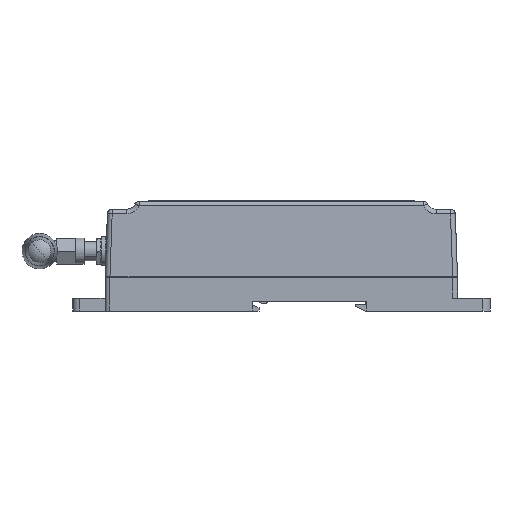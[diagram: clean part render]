
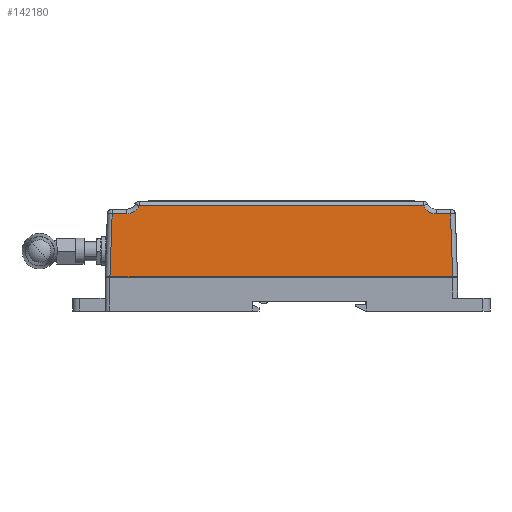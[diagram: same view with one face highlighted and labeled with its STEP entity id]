
A CAD part, left-side view. The second image highlights one B-rep face of the part: STEP entity #142180.
In plain terms, the highlighted planar face has unit normal (-0.999, 0, 0.035).
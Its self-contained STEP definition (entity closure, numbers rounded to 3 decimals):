
#5036 = VECTOR ( 'NONE', #137524, 1000. ) ;
#9621 = PLANE ( 'NONE',  #84784 ) ;
#18793 = VERTEX_POINT ( 'NONE', #130664 ) ;
#19945 = VECTOR ( 'NONE', #118514, 1000. ) ;
#21658 = CARTESIAN_POINT ( 'NONE',  ( 0.742, 6.619, 21.252 ) ) ;
#22987 = DIRECTION ( 'NONE',  ( 0., 1., 0. ) ) ;
#25621 = CARTESIAN_POINT ( 'NONE',  ( 0.742, 102.881, 21.252 ) ) ;
#26597 = FACE_OUTER_BOUND ( 'NONE', #163834, .T. ) ;
#43838 = CARTESIAN_POINT ( 'NONE',  ( 0.059, 1.558, 1.7 ) ) ;
#44409 = LINE ( 'NONE', #63362, #5036 ) ;
#46952 = CARTESIAN_POINT ( 'NONE',  ( 0.742, 107.259, 21.252 ) ) ;
#51894 = ORIENTED_EDGE ( 'NONE', *, *, #53049, .F. ) ;
#52694 = CARTESIAN_POINT ( 'NONE',  ( 0.742, 0., 21.252 ) ) ;
#53049 = EDGE_CURVE ( 'NONE', #112530, #167129, #147745, .T. ) ;
#53608 = VERTEX_POINT ( 'NONE', #46952 ) ;
#54285 = DIRECTION ( 'NONE',  ( 0.035, 0., 0.999 ) ) ;
#54790 = CARTESIAN_POINT ( 'NONE',  ( 0.774, 99.631, 22.178 ) ) ;
#55569 =( BOUNDED_CURVE ( )  B_SPLINE_CURVE ( 3, ( #99826, #54790, #114788, #25621 ),
 .UNSPECIFIED., .F., .F. ) 
 B_SPLINE_CURVE_WITH_KNOTS ( ( 4, 4 ),
 ( 5.173, 6.283 ),
 .UNSPECIFIED. ) 
 CURVE ( )  GEOMETRIC_REPRESENTATION_ITEM ( )  RATIONAL_B_SPLINE_CURVE ( ( 1., 0.9, 0.9, 1. ) ) 
 REPRESENTATION_ITEM ( '' )  );
#58542 = CARTESIAN_POINT ( 'NONE',  ( -0.002, 1.497, -0.052 ) ) ;
#63362 = CARTESIAN_POINT ( 'NONE',  ( 0.829, 0., 23.752 ) ) ;
#63989 = LINE ( 'NONE', #58542, #19945 ) ;
#64481 = VERTEX_POINT ( 'NONE', #69615 ) ;
#64720 = DIRECTION ( 'NONE',  ( 0., 1., 0. ) ) ;
#66301 = CARTESIAN_POINT ( 'NONE',  ( 0.829, 10.65, 23.752 ) ) ;
#68492 = VECTOR ( 'NONE', #64720, 1000. ) ;
#68703 = EDGE_CURVE ( 'NONE', #101586, #175535, #44409, .T. ) ;
#69615 = CARTESIAN_POINT ( 'NONE',  ( 0.742, 102.881, 21.252 ) ) ;
#74153 = DIRECTION ( 'NONE',  ( -0.035, 0.035, -0.999 ) ) ;
#74484 = EDGE_CURVE ( 'NONE', #64481, #53608, #149036, .T. ) ;
#75553 = LINE ( 'NONE', #52694, #105854 ) ;
#76205 = CARTESIAN_POINT ( 'NONE',  ( 0.829, 10.65, 23.752 ) ) ;
#79548 = CARTESIAN_POINT ( 'NONE',  ( 0.829, 98.85, 23.752 ) ) ;
#84784 = AXIS2_PLACEMENT_3D ( 'NONE', #127833, #143487, #54285 ) ;
#86177 = ORIENTED_EDGE ( 'NONE', *, *, #132286, .T. ) ;
#89382 = LINE ( 'NONE', #148391, #124233 ) ;
#95694 = ORIENTED_EDGE ( 'NONE', *, *, #74484, .T. ) ;
#99826 = CARTESIAN_POINT ( 'NONE',  ( 0.829, 98.85, 23.752 ) ) ;
#101586 = VERTEX_POINT ( 'NONE', #76205 ) ;
#105854 = VECTOR ( 'NONE', #22987, 1000. ) ;
#109526 = VECTOR ( 'NONE', #154823, 1000. ) ;
#110721 = CARTESIAN_POINT ( 'NONE',  ( 0.742, 8.376, 21.252 ) ) ;
#112530 = VERTEX_POINT ( 'NONE', #43838 ) ;
#114788 = CARTESIAN_POINT ( 'NONE',  ( 0.742, 101.124, 21.252 ) ) ;
#115891 = EDGE_CURVE ( 'NONE', #18793, #125632, #75553, .T. ) ;
#118514 = DIRECTION ( 'NONE',  ( 0.035, 0.035, 0.999 ) ) ;
#120896 = ORIENTED_EDGE ( 'NONE', *, *, #180505, .T. ) ;
#121222 = ORIENTED_EDGE ( 'NONE', *, *, #115891, .T. ) ;
#124233 = VECTOR ( 'NONE', #74153, 1000. ) ;
#125632 = VERTEX_POINT ( 'NONE', #135264 ) ;
#127423 =( BOUNDED_CURVE ( )  B_SPLINE_CURVE ( 3, ( #21658, #110721, #155504, #66301 ),
 .UNSPECIFIED., .F., .F. ) 
 B_SPLINE_CURVE_WITH_KNOTS ( ( 4, 4 ),
 ( 0., 1.11 ),
 .UNSPECIFIED. ) 
 CURVE ( )  GEOMETRIC_REPRESENTATION_ITEM ( )  RATIONAL_B_SPLINE_CURVE ( ( 1., 0.9, 0.9, 1. ) ) 
 REPRESENTATION_ITEM ( '' )  );
#127833 = CARTESIAN_POINT ( 'NONE',  ( 0., 0., 0. ) ) ;
#130664 = CARTESIAN_POINT ( 'NONE',  ( 0.742, 2.241, 21.252 ) ) ;
#132286 = EDGE_CURVE ( 'NONE', #125632, #101586, #127423, .T. ) ;
#135264 = CARTESIAN_POINT ( 'NONE',  ( 0.742, 6.619, 21.252 ) ) ;
#137524 = DIRECTION ( 'NONE',  ( 0., 1., 0. ) ) ;
#139448 = EDGE_CURVE ( 'NONE', #175535, #64481, #55569, .T. ) ;
#139869 = CARTESIAN_POINT ( 'NONE',  ( 0.742, 0., 21.252 ) ) ;
#142180 = ADVANCED_FACE ( 'NONE', ( #26597 ), #9621, .T. ) ;
#143487 = DIRECTION ( 'NONE',  ( -0.999, 0., 0.035 ) ) ;
#147542 = ORIENTED_EDGE ( 'NONE', *, *, #68703, .T. ) ;
#147745 = LINE ( 'NONE', #183511, #68492 ) ;
#148391 = CARTESIAN_POINT ( 'NONE',  ( 0.131, 107.87, 3.762 ) ) ;
#149036 = LINE ( 'NONE', #139869, #109526 ) ;
#153975 = ORIENTED_EDGE ( 'NONE', *, *, #139448, .T. ) ;
#154349 = ORIENTED_EDGE ( 'NONE', *, *, #165213, .T. ) ;
#154823 = DIRECTION ( 'NONE',  ( 0., 1., 0. ) ) ;
#155504 = CARTESIAN_POINT ( 'NONE',  ( 0.774, 9.869, 22.178 ) ) ;
#163834 = EDGE_LOOP ( 'NONE', ( #51894, #120896, #121222, #86177, #147542, #153975, #95694, #154349 ) ) ;
#165213 = EDGE_CURVE ( 'NONE', #53608, #167129, #89382, .T. ) ;
#167129 = VERTEX_POINT ( 'NONE', #170266 ) ;
#170266 = CARTESIAN_POINT ( 'NONE',  ( 0.059, 107.942, 1.7 ) ) ;
#175535 = VERTEX_POINT ( 'NONE', #79548 ) ;
#180505 = EDGE_CURVE ( 'NONE', #112530, #18793, #63989, .T. ) ;
#183511 = CARTESIAN_POINT ( 'NONE',  ( 0.059, 0., 1.7 ) ) ;
